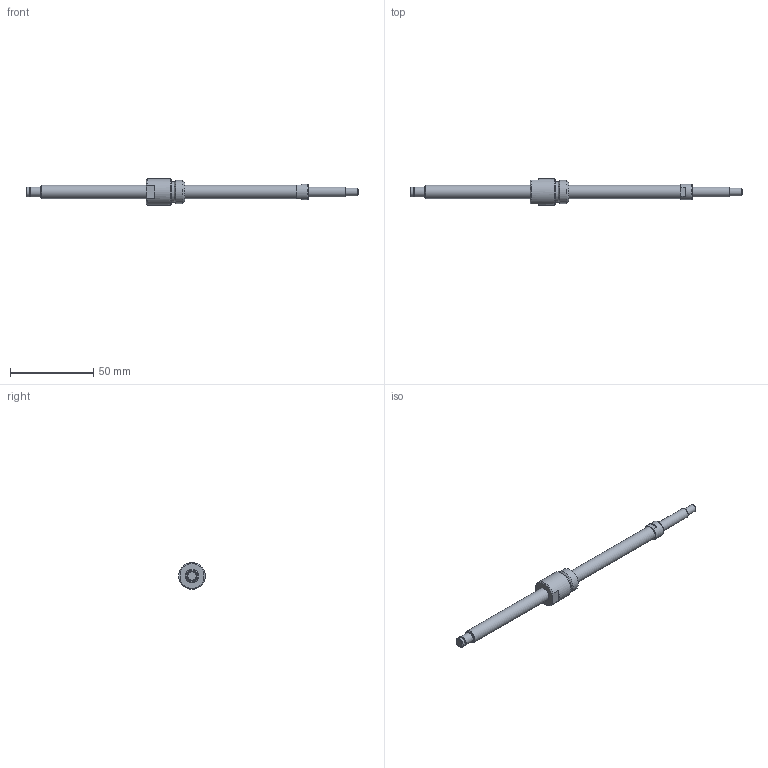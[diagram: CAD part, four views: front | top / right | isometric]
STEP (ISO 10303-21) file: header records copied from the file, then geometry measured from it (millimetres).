
FILE_DESCRIPTION(/* description */ ('STEP AP214'),/* implementation_level */ '2;1');
FILE_NAME(/* name */ 'NSG0802-150R200C5B0X(63.5)',/* time_stamp */ '2026-08-20T15:47:49+02:00',/* author */ ('License CC BY-ND 4.0'),/* organization */ ('CADENAS'),/* preprocessor_version */ 'ST-DEVELOPER v20',/* originating_system */ 'PARTsolutions',/* authorisation */ ' ');
FILE_SCHEMA (('AUTOMOTIVE_DESIGN {1 0 10303 214 3 1 1}'));
Length unit declared in the file: millimetre
Products named in the file (3): NSG0802-150R200C5B0X(63.5); NSG0802-150R200C3B_shaft; NSG0802_nut
Assembly tree (2 placements, depth 2):
  NSG0802-150R200C5B0X(63.5)
    NSG0802-150R200C3B_shaft
    NSG0802_nut
Bounding box: 200 x 16 x 16 mm (x, y, z)
Volume: 12158.5 mm3; surface area: 6868.3 mm2
Topology: 2 solids, 2 shells, 42 faces, 83 edges, 51 vertices
Faces by surface type: plane 20, cylinder 11, cone 10, torus 1
Full cylindrical faces by diameter (mm): 4.5 x1, 5.7 x1, 6 x3, 8 x2, 9.5 x1, 12.4 x1, 14 x1, 16 x1
Entity records: 1047 total; most frequent: DIRECTION 186, CARTESIAN_POINT 167, ORIENTED_EDGE 122, AXIS2_PLACEMENT_3D 84, EDGE_LOOP 70, FACE_BOUND 70, EDGE_CURVE 61, VERTEX_POINT 49
